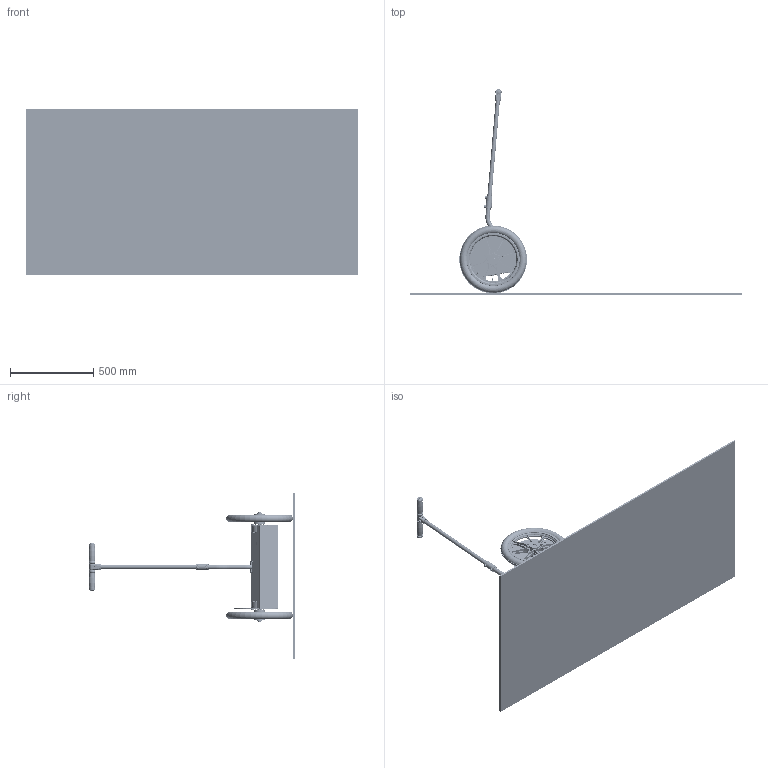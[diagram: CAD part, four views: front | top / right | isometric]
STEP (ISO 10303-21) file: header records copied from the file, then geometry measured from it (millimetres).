
FILE_DESCRIPTION (( 'STEP AP214' ), '1' );
FILE_NAME ('gyropode.STEP', '2011-09-23T08:26:08', ( '' ), ( '' ), 'SwSTEP 2.0', 'SolidWorks 2011', '' );
FILE_SCHEMA (( 'AUTOMOTIVE_DESIGN' ));
Length unit declared in the file: millimetre
Products named in the file (108): arbre moteur; bobinage; Roulement (ref SKF 6002RS); Roulement_r1rb_Eroul33; Roulement_r1rb_Bext33; Roulement_r1rb_Bint33; anneau elastique pour arbre 10-1; colonne de direction; bague de réduction; bouchon du guidon; poignée; guidon; Vis CHC M8-22_Default; pince; bague de réduction 25-27; colonne de direction haute; bloc de jonction; Vis sans t皻e HC M12-12_Default; Vis sans t皻e fendue M3-5_Default; accouplement; accouplement élastique; bouchon de la colonne de direction; colonne de direction basse; arbre de sortie + roue; rondelle grower W 12; Vis H M-12-18_ISO 4014 - M12 x 50 x 30-N; rondelle de serrage de la roue; rondelle plate L 12; roue; bouchon; chambre à air; pneu 16x2.125; insert roue; entretoise plastique; rondelle essieu de roue; manchon fileté; Vis CS M4-16_ISO 1207 - M4 x 16 --- 16N; silentbloc; plateau d''entrainement; entretoise percée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
Assembly tree (247 placements, depth 5):
  gyropode
    sol
    arbre de sortie + roue  x2
      entretoise plastique
      entretoise percée
      silentbloc
      Vis CS M4-16_ISO 1207 - M4 x 16 --- 16N
      rondelle grower WZ 12
      entretoise percée pour entrainement
      manchon fileté
      rondelle de serrage de la roue
      rondelle plate L 12
      roue
        pneu 16x2.125
        chambre à air
        bouchon
        roue
        insert roue
      arbre de sortie du réducteur
        roue dentée
        clavette forme A 5x5x12
        arbre de sortie du moto-reducteur
        Roulement_(ref_SKF_6004Z)
          Roulement_r1rb_Eroul46  x12
          Roulement_r1rb_Bext46
          Roulement_r1rb_Bint46
        Roulement_(ref_SKF_6000Z)
          Roulement_r1rb_Eroul22  x8
          Roulement_r1rb_Bint22
          Roulement_r1rb_Bext22
      rondelle essieu de roue
      plateau d''entrainement
      Vis H M-12-18_ISO 4014 - M12 x 50 x 30-N
      rondelle grower W 12
      essieu
    arbre moteur  x2
      anneau elastique pour arbre 10-1
      arbre moteur
      bobinage
      Roulement_(ref_SKF_6000Z)
        Roulement_r1rb_Eroul22  x8
        Roulement_r1rb_Bint22
        Roulement_r1rb_Bext22
      Roulement (ref SKF 6002RS)
        Roulement_r1rb_Bint33
        Roulement_r1rb_Eroul33  x12
        Roulement_r1rb_Bext33
    colonne de direction
      guidon
      Ecrou H M8_Default
      colonne de direction basse
      bouchon du guidon  x2
      bague de réduction 25-27
      pince  x2
      bloc de jonction
      Vis CHC M8-22_Default
      Vis sans t皻e HC M12-12_Default  x2
      poignée  x2
      bague de réduction  x2
      bouchon de la colonne de direction
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Bounding box: 2000 x 1241.51 x 1000 mm (x, y, z)
Volume: 27524848 mm3; surface area: 8554541.9 mm2
Topology: 370 solids, 370 shells, 13930 faces, 36202 edges, 22498 vertices
Faces by surface type: cylinder 4892, plane 4632, torus 1594, cone 1302, bspline 1178, sphere 332
Entity records: 222393 total; most frequent: CARTESIAN_POINT 66852, ORIENTED_EDGE 31492, DIRECTION 30786, EDGE_CURVE 15746, AXIS2_PLACEMENT_3D 12341, VERTEX_POINT 9911, CIRCLE 6565, EDGE_LOOP 6549
